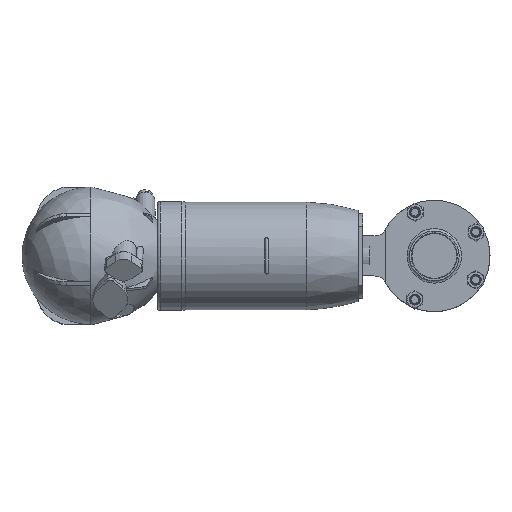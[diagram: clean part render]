
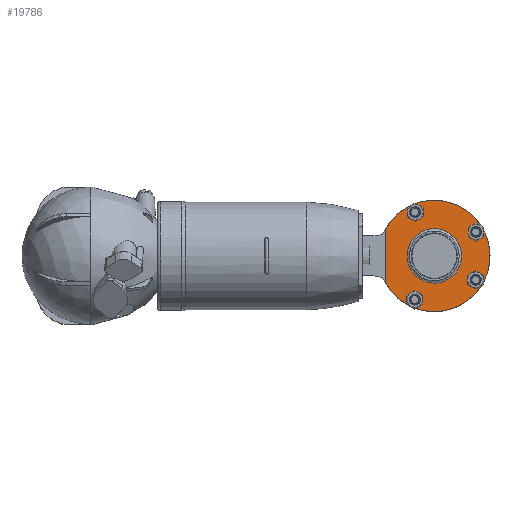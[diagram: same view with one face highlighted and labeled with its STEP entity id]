
A CAD part, top view. The second image highlights one B-rep face of the part: STEP entity #19786.
In plain terms, the highlighted planar face has unit normal (0, 0, 1) as drawn and (0, -1, 0) by its records, which use the part's own axes.
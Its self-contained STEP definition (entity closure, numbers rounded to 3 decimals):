
#579=FACE_BOUND('',#3717,.T.);
#580=FACE_BOUND('',#3718,.T.);
#581=FACE_BOUND('',#3719,.T.);
#582=FACE_BOUND('',#3720,.T.);
#583=FACE_BOUND('',#3721,.T.);
#1505=PLANE('',#22434);
#2525=FACE_OUTER_BOUND('',#3716,.T.);
#3716=EDGE_LOOP('',(#17438,#17439));
#3717=EDGE_LOOP('',(#17440));
#3718=EDGE_LOOP('',(#17441));
#3719=EDGE_LOOP('',(#17442));
#3720=EDGE_LOOP('',(#17443));
#3721=EDGE_LOOP('',(#17444));
#5147=CIRCLE('',#22415,4.25);
#5149=CIRCLE('',#22418,4.25);
#5151=CIRCLE('',#22421,4.25);
#5153=CIRCLE('',#22424,4.25);
#5159=CIRCLE('',#22433,22.5);
#5160=CIRCLE('',#22435,46.);
#6273=LINE('',#36895,#7380);
#7380=VECTOR('',#28147,10.);
#9182=VERTEX_POINT('',#36867);
#9184=VERTEX_POINT('',#36873);
#9186=VERTEX_POINT('',#36879);
#9188=VERTEX_POINT('',#36885);
#9190=VERTEX_POINT('',#36891);
#9192=VERTEX_POINT('',#36894);
#9196=VERTEX_POINT('',#36906);
#11937=EDGE_CURVE('',#9182,#9182,#5147,.T.);
#11940=EDGE_CURVE('',#9184,#9184,#5149,.T.);
#11943=EDGE_CURVE('',#9186,#9186,#5151,.T.);
#11946=EDGE_CURVE('',#9188,#9188,#5153,.T.);
#11950=EDGE_CURVE('',#9192,#9190,#6273,.T.);
#11957=EDGE_CURVE('',#9196,#9196,#5159,.T.);
#11958=EDGE_CURVE('',#9192,#9190,#5160,.T.);
#17438=ORIENTED_EDGE('',*,*,#11950,.T.);
#17439=ORIENTED_EDGE('',*,*,#11958,.F.);
#17440=ORIENTED_EDGE('',*,*,#11937,.T.);
#17441=ORIENTED_EDGE('',*,*,#11940,.T.);
#17442=ORIENTED_EDGE('',*,*,#11943,.T.);
#17443=ORIENTED_EDGE('',*,*,#11946,.T.);
#17444=ORIENTED_EDGE('',*,*,#11957,.T.);
#19786=ADVANCED_FACE('',(#2525,#579,#580,#581,#582,#583),#1505,.T.);
#22415=AXIS2_PLACEMENT_3D('',#36868,#28118,#28119);
#22418=AXIS2_PLACEMENT_3D('',#36874,#28125,#28126);
#22421=AXIS2_PLACEMENT_3D('',#36880,#28132,#28133);
#22424=AXIS2_PLACEMENT_3D('',#36886,#28139,#28140);
#22433=AXIS2_PLACEMENT_3D('',#36908,#28162,#28163);
#22434=AXIS2_PLACEMENT_3D('',#36909,#28164,#28165);
#22435=AXIS2_PLACEMENT_3D('',#36910,#28166,#28167);
#28118=DIRECTION('center_axis',(0.,1.,0.));
#28119=DIRECTION('ref_axis',(-1.,0.,0.));
#28125=DIRECTION('center_axis',(0.,1.,0.));
#28126=DIRECTION('ref_axis',(-1.,0.,0.));
#28132=DIRECTION('center_axis',(0.,1.,0.));
#28133=DIRECTION('ref_axis',(-1.,0.,0.));
#28139=DIRECTION('center_axis',(0.,1.,0.));
#28140=DIRECTION('ref_axis',(-1.,0.,0.));
#28147=DIRECTION('',(-1.,0.,0.));
#28162=DIRECTION('center_axis',(0.,1.,0.));
#28163=DIRECTION('ref_axis',(1.,0.,0.));
#28164=DIRECTION('center_axis',(0.,-1.,0.));
#28165=DIRECTION('ref_axis',(0.,0.,-1.));
#28166=DIRECTION('center_axis',(0.,1.,0.));
#28167=DIRECTION('ref_axis',(1.,0.,0.));
#36867=CARTESIAN_POINT('',(24.,-10.,-34.208));
#36868=CARTESIAN_POINT('Origin',(19.75,-10.,-34.208));
#36873=CARTESIAN_POINT('',(-15.5,-10.,-34.208));
#36874=CARTESIAN_POINT('Origin',(-19.75,-10.,-34.208));
#36879=CARTESIAN_POINT('',(-31.835,-10.,16.066));
#36880=CARTESIAN_POINT('Origin',(-36.085,-10.,16.066));
#36885=CARTESIAN_POINT('',(40.335,-10.,16.066));
#36886=CARTESIAN_POINT('Origin',(36.085,-10.,16.066));
#36891=CARTESIAN_POINT('',(-22.716,-10.,40.));
#36894=CARTESIAN_POINT('',(22.716,-10.,40.));
#36895=CARTESIAN_POINT('',(0.,-10.,40.));
#36906=CARTESIAN_POINT('',(0.,-10.,-22.5));
#36908=CARTESIAN_POINT('Origin',(0.,-10.,0.));
#36909=CARTESIAN_POINT('Origin',(0.,-10.,46.));
#36910=CARTESIAN_POINT('Origin',(0.,-10.,0.));
